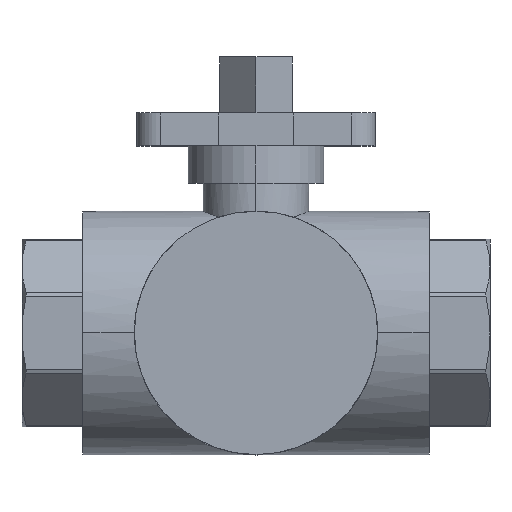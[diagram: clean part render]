
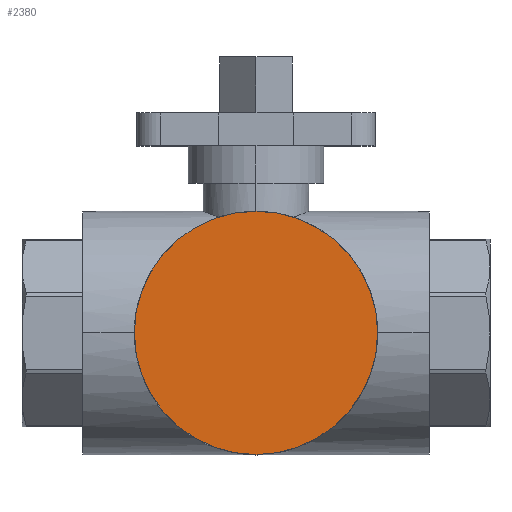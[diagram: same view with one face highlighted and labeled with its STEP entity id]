
A CAD part, top view. The second image highlights one B-rep face of the part: STEP entity #2380.
In plain terms, the highlighted planar face has unit normal (0, 0, 1).
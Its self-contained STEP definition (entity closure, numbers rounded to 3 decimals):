
#385 = DIRECTION ( 'NONE',  ( -1., 0., 0. ) ) ;
#778 = PLANE ( 'NONE',  #953 ) ;
#891 = VERTEX_POINT ( 'NONE', #4266 ) ;
#953 = AXIS2_PLACEMENT_3D ( 'NONE', #4542, #2883, #385 ) ;
#991 = ORIENTED_EDGE ( 'NONE', *, *, #4012, .T. ) ;
#1395 = DIRECTION ( 'NONE',  ( 0., 0., 1. ) ) ;
#1414 = CIRCLE ( 'NONE', #3075, 26. ) ;
#1482 = DIRECTION ( 'NONE',  ( 0., 0., 1. ) ) ;
#1578 = AXIS2_PLACEMENT_3D ( 'NONE', #3962, #1482, #4384 ) ;
#1755 = CARTESIAN_POINT ( 'NONE',  ( -26., 0., 26. ) ) ;
#2380 = ADVANCED_FACE ( 'NONE', ( #4094 ), #778, .F. ) ;
#2883 = DIRECTION ( 'NONE',  ( 0., 0., -1. ) ) ;
#3075 = AXIS2_PLACEMENT_3D ( 'NONE', #3872, #1395, #4288 ) ;
#3272 = VERTEX_POINT ( 'NONE', #1755 ) ;
#3495 = EDGE_LOOP ( 'NONE', ( #4071, #991 ) ) ;
#3872 = CARTESIAN_POINT ( 'NONE',  ( 0., 0., 26. ) ) ;
#3962 = CARTESIAN_POINT ( 'NONE',  ( 0., 0., 26. ) ) ;
#4012 = EDGE_CURVE ( 'NONE', #891, #3272, #1414, .T. ) ;
#4071 = ORIENTED_EDGE ( 'NONE', *, *, #4116, .T. ) ;
#4094 = FACE_OUTER_BOUND ( 'NONE', #3495, .T. ) ;
#4116 = EDGE_CURVE ( 'NONE', #3272, #891, #5052, .T. ) ;
#4266 = CARTESIAN_POINT ( 'NONE',  ( 26., 0., 26. ) ) ;
#4288 = DIRECTION ( 'NONE',  ( 1., 0., 0. ) ) ;
#4384 = DIRECTION ( 'NONE',  ( 1., 0., 0. ) ) ;
#4542 = CARTESIAN_POINT ( 'NONE',  ( 0., 26., 26. ) ) ;
#5052 = CIRCLE ( 'NONE', #1578, 26. ) ;
